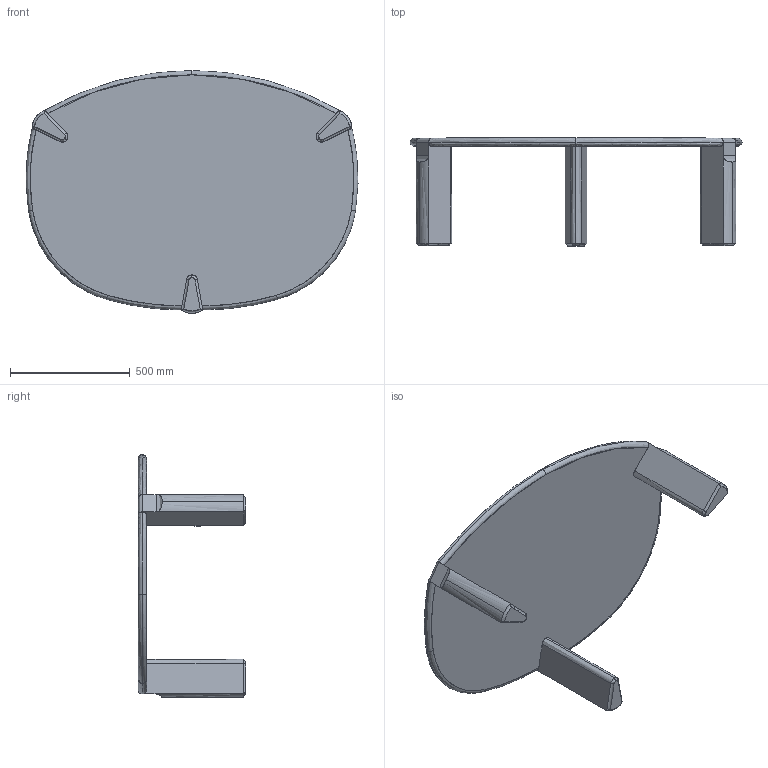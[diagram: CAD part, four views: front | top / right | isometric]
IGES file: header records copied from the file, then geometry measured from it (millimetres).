
Start section: SolidWorks IGES file using analytic representation for surfaces
Global section: file name: C:\Users\Utilizador\Desktop\Sales Files\686\686M Twenty-Five Coffee Table_3D IGS.IGS; native system: SolidWorks 2016; preprocessor: SolidWorks 2016; author: Utilizador; date: 221021.161259; units: millimetre
Bounding box: 1387.21 x 450 x 1014 mm (x, y, z)
Surface area: 2977647.9 mm2 (no closed solid volume)
Topology: 0 solids, 0 shells, 160 faces, 2823 edges, 2823 vertices
Faces by surface type: revolution 80, bspline 80
